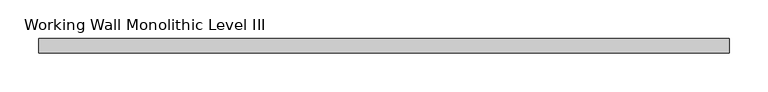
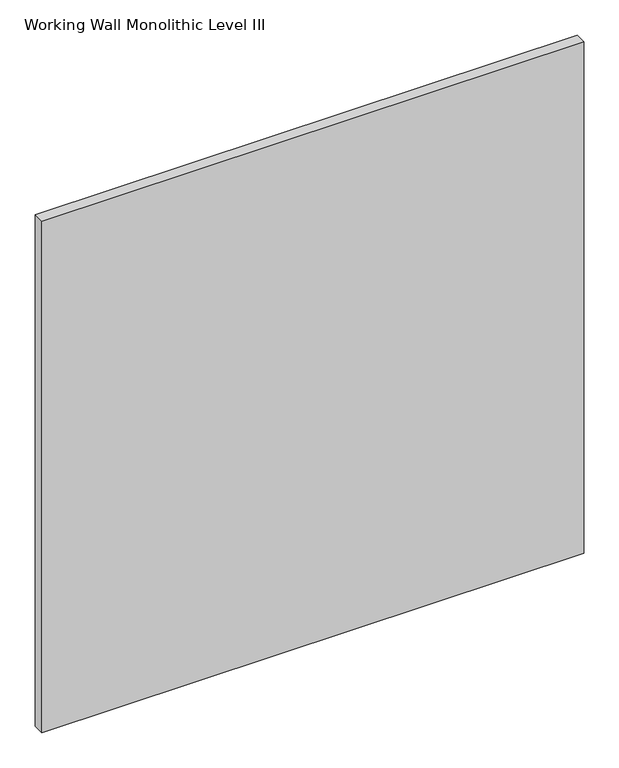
"""IFC4 building model written with IfcOpenShell, lengths in millimetres: proxy geometry, Panel-Fascia-Teknion-Altos-Standard : Working Wall Monolithic Level III."""

from ifc_helpers import new_model, si_unit, frame, origin, place, context, project, spatial, polyline, outline, extrude, source, transform, mapped, element, save


def working_wall_monolithic_level_iii_e35548a4(model_context):
    return source(origin(), model_context, "Body", "SweptSolid", [
        extrude(outline(polyline([(447.0300781, -9.525), (-447.0300781, -9.525), (-447.0300781, 9.525), (447.0300781, 9.525), (447.0300781, -9.525)])), frame((0.0, 0.0, 3.175), z_axis=(0.0, 0.0, 1.0), x_axis=(1.0, 0.0, 0.0)), (0.0, 0.0, 1.0), 892.175),
    ])


if __name__ == "__main__":
    model = new_model("IFC4")
    model_context = context("Model", 3, world=origin())
    ifc_project = project(units=[si_unit("LENGTHUNIT", "METRE", prefix="MILLI")], contexts=[model_context])
    site = spatial("IfcSite", under=ifc_project)
    building = spatial("IfcBuilding", under=site)
    placement = place(None, origin())
    working_wall_monolithic_level_iii_shape = working_wall_monolithic_level_iii_e35548a4(model_context)
    element("IfcBuildingElementProxy", 1, Name="Panel-Fascia-Teknion-Altos-Standard : Working Wall Monolithic Level III", ObjectType="Panel-Fascia-Teknion-Altos-Standard : Working Wall Monolithic Level III", at=placement, inside=building, context=model_context, shape_type="MappedRepresentation", body=[
        mapped(working_wall_monolithic_level_iii_shape, transform((0.0, 0.0, 0.0), x_axis=(1.0, 0.0, 0.0), y_axis=(0.0, 1.0, 0.0), z_axis=(0.0, 0.0, 1.0))),
    ])
    save(model, "model.ifc")
